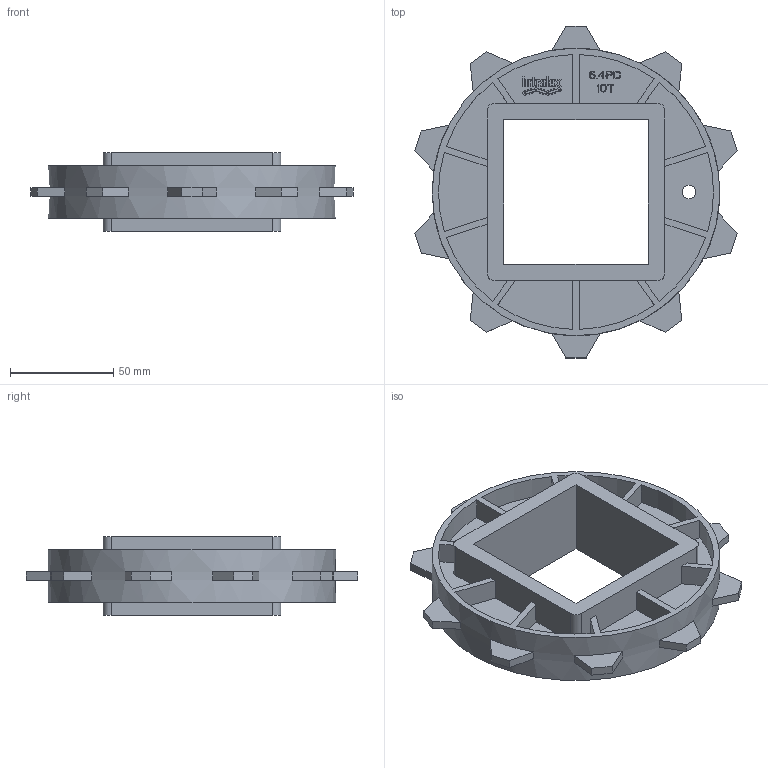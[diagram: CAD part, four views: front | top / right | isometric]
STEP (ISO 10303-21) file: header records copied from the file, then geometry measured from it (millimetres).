
FILE_DESCRIPTION((''),'2;1');
FILE_NAME('S400_SPROCKET_64X70_SQ','2008-12-12T',('jmumphre'),(''),'PRO/ENGINEER BY PARAMETRIC TECHNOLOGY CORPORATION, 2008150','PRO/ENGINEER BY PARAMETRIC TECHNOLOGY CORPORATION, 2008150','');
FILE_SCHEMA(('CONFIG_CONTROL_DESIGN'));
Length unit declared in the file: inch
Products named in the file (1): S400_SPROCKET_64X70_SQ
Bounding box: 155.61 x 160.42 x 37.85 mm (x, y, z)
Volume: 174931.2 mm3; surface area: 72814.6 mm2
Topology: 1 solids, 1 shells, 594 faces, 1653 edges, 1102 vertices
Faces by surface type: plane 458, cylinder 136
Entity records: 18957 total; most frequent: CARTESIAN_POINT 3349, ORIENTED_EDGE 3306, DIRECTION 3133, EDGE_CURVE 1653, VECTOR 1361, LINE 1361, VERTEX_POINT 1102, AXIS2_PLACEMENT_3D 886
